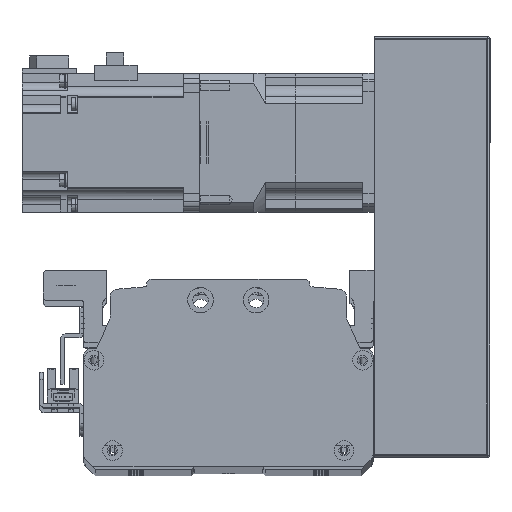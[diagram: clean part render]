
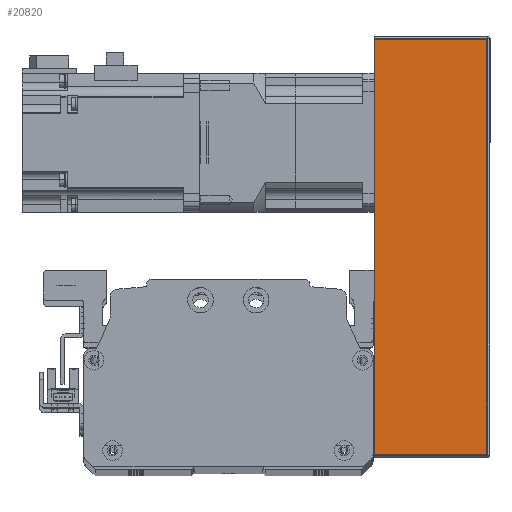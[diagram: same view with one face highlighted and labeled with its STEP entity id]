
A CAD part, top view. The second image highlights one B-rep face of the part: STEP entity #20820.
In plain terms, the highlighted planar face has unit normal (0, 0, 1) as drawn and (0, -1, 0) by its records, which use the part's own axes.
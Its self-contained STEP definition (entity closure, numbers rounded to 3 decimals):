
#563=PLANE('',#22863);
#1778=LINE('',#33972,#3402);
#1792=LINE('',#34024,#3416);
#1794=LINE('',#34032,#3418);
#1795=LINE('',#34034,#3419);
#3402=VECTOR('',#27625,10.);
#3416=VECTOR('',#27685,10.);
#3418=VECTOR('',#27699,10.);
#3419=VECTOR('',#27702,10.);
#5850=FACE_OUTER_BOUND('',#7354,.T.);
#7354=EDGE_LOOP('',(#17302,#17303,#17304,#17305));
#10270=VERTEX_POINT('',#33969);
#10271=VERTEX_POINT('',#33971);
#10285=VERTEX_POINT('',#34019);
#10286=VERTEX_POINT('',#34022);
#12738=EDGE_CURVE('',#10271,#10270,#1778,.T.);
#12766=EDGE_CURVE('',#10285,#10286,#1792,.T.);
#12770=EDGE_CURVE('',#10286,#10271,#1794,.T.);
#12771=EDGE_CURVE('',#10270,#10285,#1795,.T.);
#17302=ORIENTED_EDGE('',*,*,#12766,.T.);
#17303=ORIENTED_EDGE('',*,*,#12770,.T.);
#17304=ORIENTED_EDGE('',*,*,#12738,.T.);
#17305=ORIENTED_EDGE('',*,*,#12771,.T.);
#20820=ADVANCED_FACE('',(#5850),#563,.F.);
#22863=AXIS2_PLACEMENT_3D('',#34033,#27700,#27701);
#27625=DIRECTION('',(1.,0.,0.));
#27685=DIRECTION('',(-1.,0.,0.));
#27699=DIRECTION('',(0.,0.,-1.));
#27700=DIRECTION('center_axis',(0.,1.,0.));
#27701=DIRECTION('ref_axis',(1.,0.,0.));
#27702=DIRECTION('',(0.,0.,1.));
#33969=CARTESIAN_POINT('',(90.,-38.,-25.));
#33971=CARTESIAN_POINT('',(-90.,-38.,-25.));
#33972=CARTESIAN_POINT('',(91.,-38.,-25.));
#34019=CARTESIAN_POINT('',(90.,-38.,24.));
#34022=CARTESIAN_POINT('',(-90.,-38.,24.));
#34024=CARTESIAN_POINT('',(-45.5,-38.,24.));
#34032=CARTESIAN_POINT('',(-90.,-38.,0.));
#34033=CARTESIAN_POINT('Origin',(-91.,-38.,0.));
#34034=CARTESIAN_POINT('',(90.,-38.,0.));
